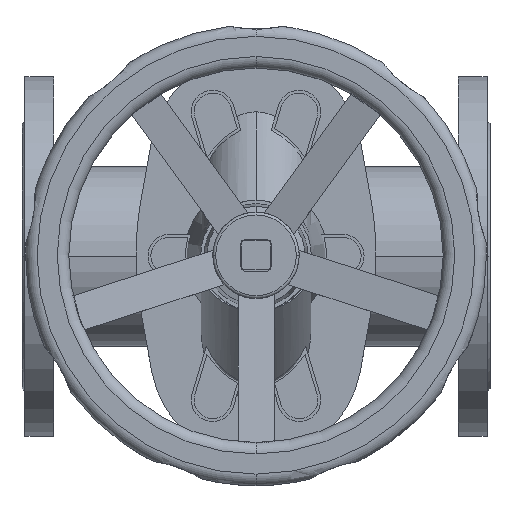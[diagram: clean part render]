
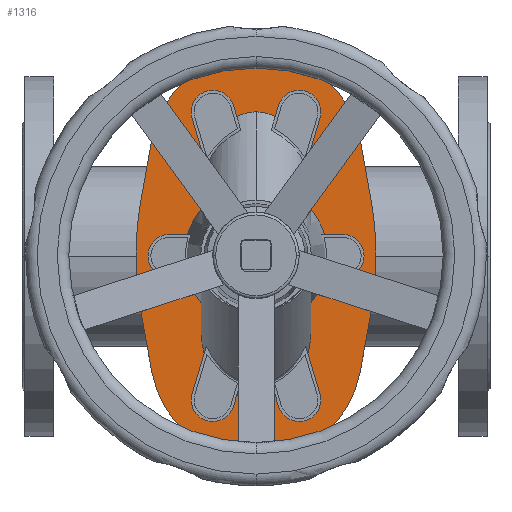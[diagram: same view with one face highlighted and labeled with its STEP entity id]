
A CAD part, top view. The second image highlights one B-rep face of the part: STEP entity #1316.
In plain terms, the highlighted planar face has unit normal (0, 0, 1).
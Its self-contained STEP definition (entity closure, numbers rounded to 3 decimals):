
#1316=ADVANCED_FACE('',(#2799),#2800,.T.);
#2799=FACE_OUTER_BOUND('',#4900,.T.);
#2800=PLANE('',#4901);
#4900=EDGE_LOOP('',(#7231,#7232,#7233,#7234,#7235,#7236,#7237,#7238,#7239,#7240,#7241,#7242,#7243,#7244));
#4901=AXIS2_PLACEMENT_3D('',#7245,#7246,#7247);
#7231=ORIENTED_EDGE('',*,*,#11519,.F.);
#7232=ORIENTED_EDGE('',*,*,#11840,.F.);
#7233=ORIENTED_EDGE('',*,*,#11841,.F.);
#7234=ORIENTED_EDGE('',*,*,#11842,.F.);
#7235=ORIENTED_EDGE('',*,*,#11843,.F.);
#7236=ORIENTED_EDGE('',*,*,#11844,.F.);
#7237=ORIENTED_EDGE('',*,*,#11845,.F.);
#7238=ORIENTED_EDGE('',*,*,#11846,.F.);
#7239=ORIENTED_EDGE('',*,*,#11847,.F.);
#7240=ORIENTED_EDGE('',*,*,#11848,.F.);
#7241=ORIENTED_EDGE('',*,*,#11849,.F.);
#7242=ORIENTED_EDGE('',*,*,#11850,.F.);
#7243=ORIENTED_EDGE('',*,*,#11851,.F.);
#7244=ORIENTED_EDGE('',*,*,#11852,.F.);
#7245=CARTESIAN_POINT('',(162.5,0.,198.0));
#7246=DIRECTION('',(0.0,0.0,1.0));
#7247=DIRECTION('',(1.0,0.0,0.0));
#11519=EDGE_CURVE('',#13574,#13575,#13576,.T.);
#11840=EDGE_CURVE('',#14109,#13574,#14110,.T.);
#11841=EDGE_CURVE('',#14111,#14109,#14112,.T.);
#11842=EDGE_CURVE('',#14113,#14111,#14114,.T.);
#11843=EDGE_CURVE('',#14115,#14113,#14116,.T.);
#11844=EDGE_CURVE('',#14117,#14115,#14118,.T.);
#11845=EDGE_CURVE('',#14119,#14117,#14120,.T.);
#11846=EDGE_CURVE('',#14121,#14119,#14122,.T.);
#11847=EDGE_CURVE('',#14123,#14121,#14124,.T.);
#11848=EDGE_CURVE('',#14125,#14123,#14126,.T.);
#11849=EDGE_CURVE('',#14127,#14125,#14128,.T.);
#11850=EDGE_CURVE('',#14129,#14127,#14130,.T.);
#11851=EDGE_CURVE('',#14131,#14129,#14132,.T.);
#11852=EDGE_CURVE('',#13575,#14131,#14133,.T.);
#13574=VERTEX_POINT('',#16502);
#13575=VERTEX_POINT('',#16503);
#13576=CIRCLE('',#16504,73.49);
#14109=VERTEX_POINT('',#17200);
#14110=LINE('',#17201,#17202);
#14111=VERTEX_POINT('',#17203);
#14112=CIRCLE('',#17204,222.594);
#14113=VERTEX_POINT('',#17205);
#14114=CIRCLE('',#17206,222.594);
#14115=VERTEX_POINT('',#17207);
#14116=CIRCLE('',#17208,222.594);
#14117=VERTEX_POINT('',#17209);
#14118=CIRCLE('',#17210,222.594);
#14119=VERTEX_POINT('',#17211);
#14120=LINE('',#17212,#17213);
#14121=VERTEX_POINT('',#17214);
#14122=CIRCLE('',#17215,73.49);
#14123=VERTEX_POINT('',#17216);
#14124=LINE('',#17217,#17218);
#14125=VERTEX_POINT('',#17219);
#14126=CIRCLE('',#17220,222.594);
#14127=VERTEX_POINT('',#17221);
#14128=CIRCLE('',#17222,222.594);
#14129=VERTEX_POINT('',#17223);
#14130=CIRCLE('',#17224,222.594);
#14131=VERTEX_POINT('',#17225);
#14132=CIRCLE('',#17226,222.594);
#14133=LINE('',#17227,#17228);
#16502=CARTESIAN_POINT('',(234.789,-80.73,198.0));
#16503=CARTESIAN_POINT('',(90.21,-80.73,198.0));
#16504=AXIS2_PLACEMENT_3D('',#20199,#20200,#20201);
#17200=CARTESIAN_POINT('',(242.121,-40.665,198.0));
#17201=CARTESIAN_POINT('',(234.789,-80.73,198.0));
#17202=VECTOR('',#20657,1.0);
#17203=CARTESIAN_POINT('',(245.758,-0.594,198.0));
#17204=AXIS2_PLACEMENT_3D('',#20658,#20659,#20660);
#17205=CARTESIAN_POINT('',(245.757,0.,198.0));
#17206=AXIS2_PLACEMENT_3D('',#20661,#20662,#20663);
#17207=CARTESIAN_POINT('',(245.758,0.594,198.0));
#17208=AXIS2_PLACEMENT_3D('',#20664,#20665,#20666);
#17209=CARTESIAN_POINT('',(242.121,40.665,198.0));
#17210=AXIS2_PLACEMENT_3D('',#20667,#20668,#20669);
#17211=CARTESIAN_POINT('',(234.789,80.73,198.0));
#17212=CARTESIAN_POINT('',(242.121,40.665,198.0));
#17213=VECTOR('',#20670,1.0);
#17214=CARTESIAN_POINT('',(90.21,80.73,198.0));
#17215=AXIS2_PLACEMENT_3D('',#20671,#20672,#20673);
#17216=CARTESIAN_POINT('',(82.878,40.665,198.0));
#17217=CARTESIAN_POINT('',(90.21,80.73,198.0));
#17218=VECTOR('',#20674,1.0);
#17219=CARTESIAN_POINT('',(79.242,0.593,198.0));
#17220=AXIS2_PLACEMENT_3D('',#20675,#20676,#20677);
#17221=CARTESIAN_POINT('',(79.242,0.001,198.0));
#17222=AXIS2_PLACEMENT_3D('',#20678,#20679,#20680);
#17223=CARTESIAN_POINT('',(79.242,-0.593,198.0));
#17224=AXIS2_PLACEMENT_3D('',#20681,#20682,#20683);
#17225=CARTESIAN_POINT('',(82.878,-40.665,198.0));
#17226=AXIS2_PLACEMENT_3D('',#20684,#20685,#20686);
#17227=CARTESIAN_POINT('',(82.878,-40.665,198.0));
#17228=VECTOR('',#20687,1.0);
#20199=CARTESIAN_POINT('',(162.5,-67.5,198.0));
#20200=DIRECTION('',(0.0,0.0,-1.0));
#20201=DIRECTION('',(1.0,0.0,0.0));
#20657=DIRECTION('',(-0.18,-0.984,-0.0));
#20658=CARTESIAN_POINT('',(23.164,-0.594,198.0));
#20659=DIRECTION('',(0.0,0.0,-1.0));
#20660=DIRECTION('',(1.0,0.0,0.0));
#20661=CARTESIAN_POINT('',(23.164,-0.594,198.0));
#20662=DIRECTION('',(0.0,0.0,-1.0));
#20663=DIRECTION('',(1.0,0.0,0.0));
#20664=CARTESIAN_POINT('',(23.164,0.594,198.0));
#20665=DIRECTION('',(0.0,0.0,-1.0));
#20666=DIRECTION('',(1.0,0.0,0.0));
#20667=CARTESIAN_POINT('',(23.164,0.594,198.0));
#20668=DIRECTION('',(0.0,0.0,-1.0));
#20669=DIRECTION('',(1.0,0.0,0.0));
#20670=DIRECTION('',(0.18,-0.984,0.0));
#20671=CARTESIAN_POINT('',(162.5,67.5,198.0));
#20672=DIRECTION('',(0.0,0.0,-1.0));
#20673=DIRECTION('',(1.0,0.0,0.0));
#20674=DIRECTION('',(0.18,0.984,0.0));
#20675=CARTESIAN_POINT('',(301.836,0.593,198.0));
#20676=DIRECTION('',(0.0,0.0,-1.0));
#20677=DIRECTION('',(1.0,0.0,0.0));
#20678=CARTESIAN_POINT('',(301.836,0.593,198.0));
#20679=DIRECTION('',(0.0,0.0,-1.0));
#20680=DIRECTION('',(1.0,0.0,0.0));
#20681=CARTESIAN_POINT('',(301.836,-0.593,198.0));
#20682=DIRECTION('',(0.0,0.0,-1.0));
#20683=DIRECTION('',(1.0,0.0,0.0));
#20684=CARTESIAN_POINT('',(301.836,-0.593,198.0));
#20685=DIRECTION('',(0.0,0.0,-1.0));
#20686=DIRECTION('',(1.0,0.0,0.0));
#20687=DIRECTION('',(-0.18,0.984,0.0));
